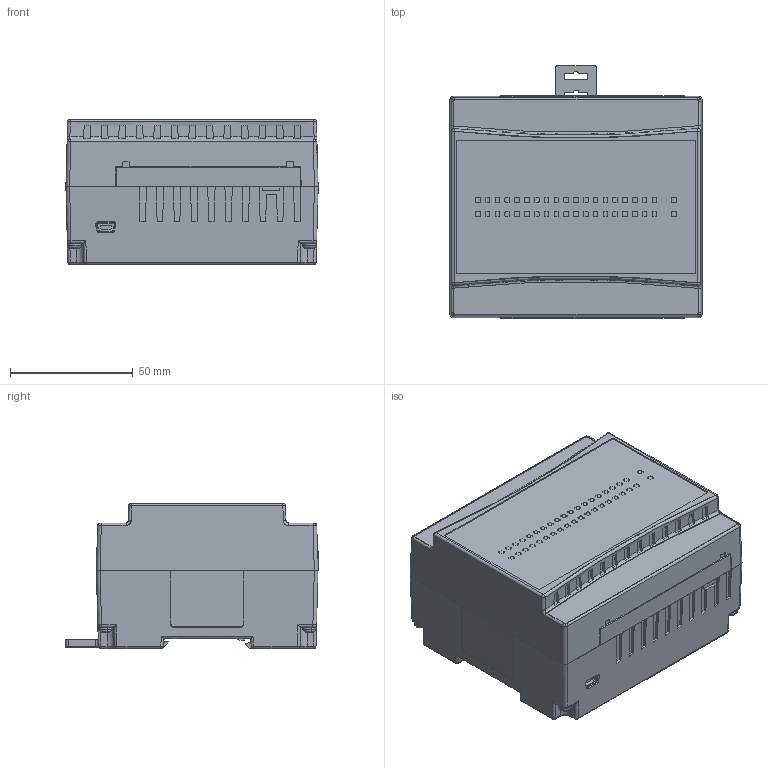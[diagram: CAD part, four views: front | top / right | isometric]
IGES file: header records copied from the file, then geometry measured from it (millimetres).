
Start section: SolidWorks IGES file using analytic representation for surfaces
Global section: file name: Z:\Products\Vision\RC15 (V130HS)\CAD files\3D\EXF-RC15 Assem_IGES.IGS; native system: SolidWorks 2011; preprocessor: SolidWorks 2011; author: baraki; date: 140729.105945; units: millimetre
Bounding box: 102.83 x 102.93 x 59.2 mm (x, y, z)
Surface area: 61615.4 mm2 (no closed solid volume)
Topology: 0 solids, 0 shells, 1574 faces, 12307 edges, 12289 vertices
Faces by surface type: bspline 1104, revolution 470
